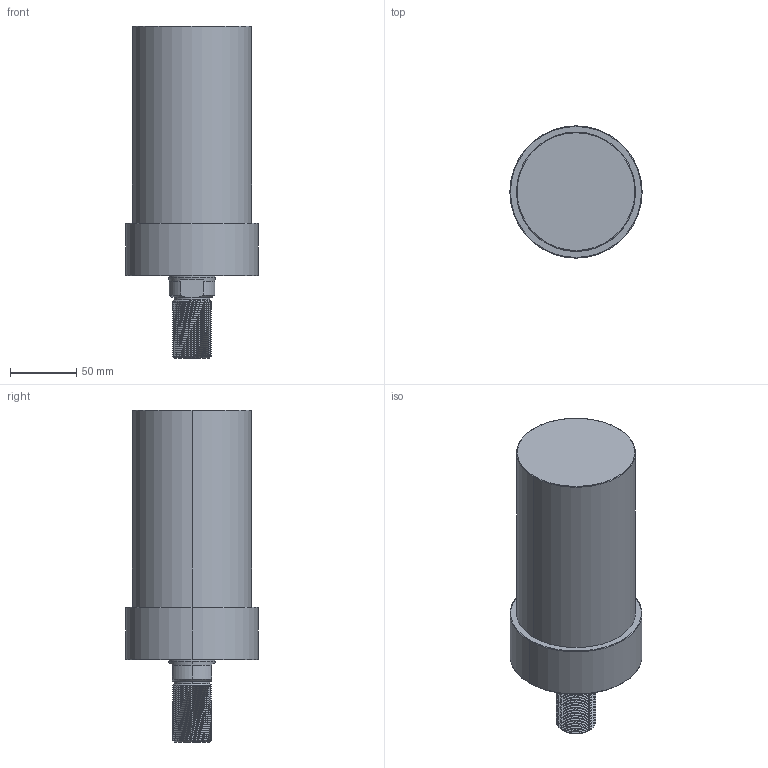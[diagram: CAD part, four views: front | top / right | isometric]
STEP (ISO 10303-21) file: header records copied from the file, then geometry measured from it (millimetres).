
FILE_DESCRIPTION (( 'STEP AP203' ), '1' );
FILE_NAME ('CLLU-090GT-105.STEP', '2020-01-15T01:30:30', ( '' ), ( '' ), 'SwSTEP 2.0', 'SolidWorks 2015', '' );
FILE_SCHEMA (( 'CONFIG_CONTROL_DESIGN' ));
Length unit declared in the file: millimetre
Products named in the file (1): CLLU-090GT-105
Bounding box: 100 x 100 x 251 mm (x, y, z)
Volume: 1299847.4 mm3; surface area: 82383.2 mm2
Topology: 1 solids, 1 shells, 125 faces, 326 edges, 204 vertices
Faces by surface type: cylinder 79, cone 26, plane 12, torus 6, bspline 2
Entity records: 7191 total; most frequent: CARTESIAN_POINT 4402, ORIENTED_EDGE 636, DIRECTION 515, EDGE_CURVE 318, VERTEX_POINT 204, AXIS2_PLACEMENT_3D 202, EDGE_LOOP 134, FACE_OUTER_BOUND 125
